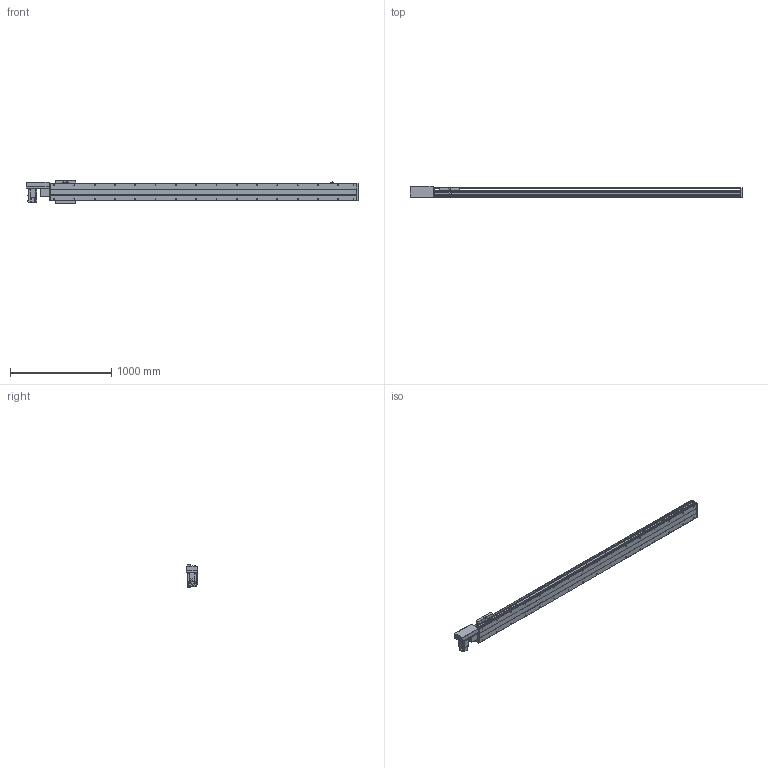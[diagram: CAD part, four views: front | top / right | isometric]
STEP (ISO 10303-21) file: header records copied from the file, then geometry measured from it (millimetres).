
FILE_DESCRIPTION(/* description */ ('STEP AP214'),/* implementation_level */ '2;1');
FILE_NAME(/* name */ 'PBS200-P40-S2650-R-T75-C1-N(0)',/* time_stamp */ '2022-06-11T08:10:50+02:00',/* author */ ('License CC BY-ND 4.0'),/* organization */ ('CADENAS'),/* preprocessor_version */ 'ST-DEVELOPER v18.102',/* originating_system */ 'PARTsolutions',/* authorisation */ ' ');
FILE_SCHEMA (('AUTOMOTIVE_DESIGN {1 0 10303 214 3 1 1}'));
Length unit declared in the file: millimetre
Products named in the file (7): PBS200-P40-S2650-R-T75-C1-N(0); PBS200_sensor; PBS200_plant; PBS200_sliser; T75-p1; PBS200T-R_motors; PBS200-S2650()_body
Assembly tree (8 placements, depth 2):
  PBS200-P40-S2650-R-T75-C1-N(0)
    PBS200_sensor  x3
    PBS200_plant
    PBS200_sliser
    T75-p1
    PBS200T-R_motors
    PBS200-S2650()_body
Bounding box: 3272 x 109 x 221 mm (x, y, z)
Volume: 21540713.5 mm3; surface area: 3443954.3 mm2
Topology: 8 solids, 8 shells, 968 faces, 2454 edges, 1596 vertices
Faces by surface type: plane 590, cylinder 314, cone 64
Full cylindrical faces by diameter (mm): 2.459 x6, 3.242 x4, 4.5 x6, 4.917 x4, 5 x6, 6 x7, 6.6 x8, 6.647 x36, 8 x6, 10 x4, 12 x8, 38 x2, 40 x1, 70 x1
Entity records: 25541 total; most frequent: DIRECTION 4519, CARTESIAN_POINT 4336, ORIENTED_EDGE 4078, EDGE_CURVE 2039, AXIS2_PLACEMENT_3D 1603, VERTEX_POINT 1420, LINE 1313, VECTOR 1313
